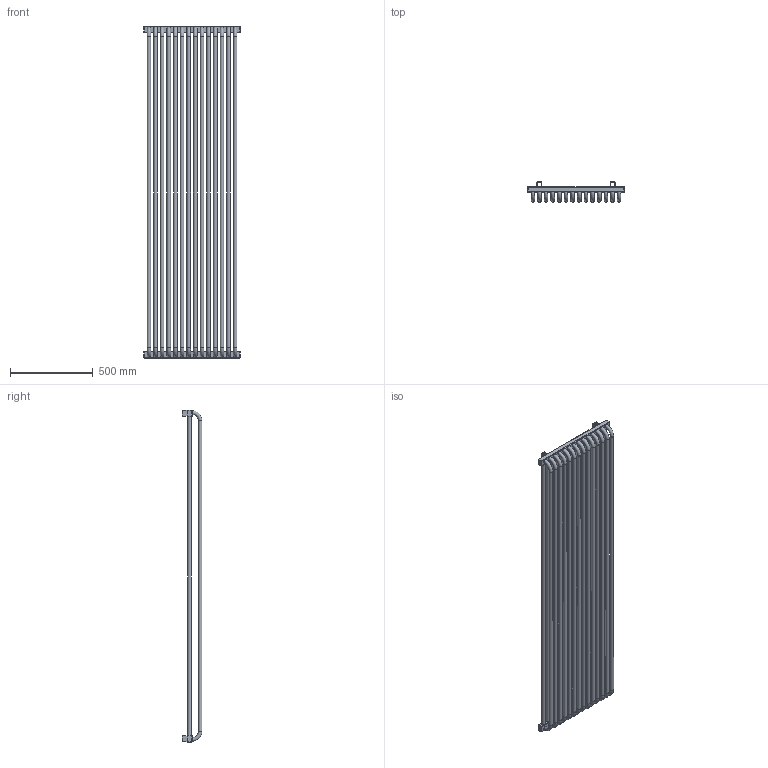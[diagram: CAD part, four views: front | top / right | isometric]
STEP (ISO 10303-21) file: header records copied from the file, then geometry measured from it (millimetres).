
FILE_DESCRIPTION((''),'2;1');
FILE_NAME('Z:\R\G\P\RGPH10 - Grzejnik Delfin\Work\Inventor\Marketing\STEP\DF-20-58-ZX.stp','2012-07-25T11:00:11',('PioRo'),(''),'Autodesk Inventor 2012','Autodesk Inventor 2012','');
FILE_SCHEMA(('AUTOMOTIVE_DESIGN { 1 0 10303 214 1 1 1 1 }'));
Length unit declared in the file: millimetre
Products named in the file (1): Część2
Bounding box: 580 x 120 x 2000 mm (x, y, z)
Volume: 22388383.2 mm3; surface area: 3982483.5 mm2
Topology: 5 solids, 5 shells, 230 faces, 577 edges, 354 vertices
Faces by surface type: plane 103, cylinder 83, torus 44
Full cylindrical faces by diameter (mm): 0.1 x4, 18.631 x3, 22 x28
Entity records: 8629 total; most frequent: CARTESIAN_POINT 2919, DIRECTION 1130, ORIENTED_EDGE 1028, EDGE_CURVE 514, AXIS2_PLACEMENT_3D 413, VERTEX_POINT 354, EDGE_LOOP 352, VECTOR 304
